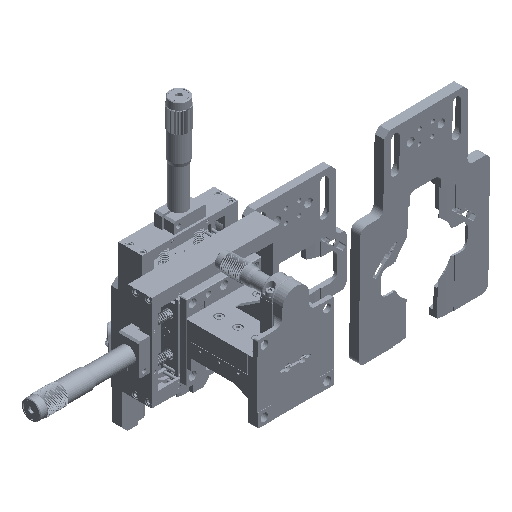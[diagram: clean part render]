
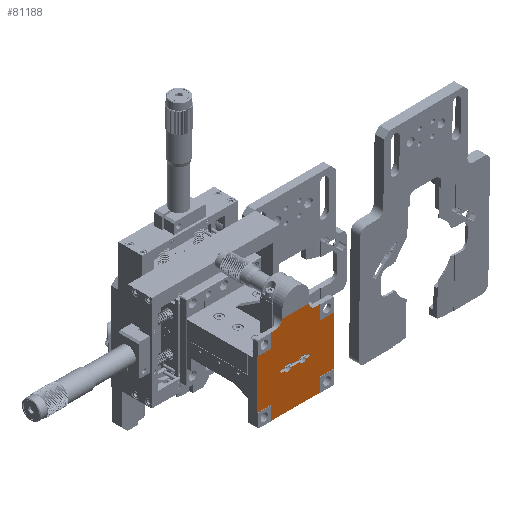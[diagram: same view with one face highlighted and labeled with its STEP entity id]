
A CAD part, isometric view. The second image highlights one B-rep face of the part: STEP entity #81188.
In plain terms, the highlighted planar face has unit normal (0, -1, 0) as drawn and (0, 0, -1) by its records, which use the part's own axes.
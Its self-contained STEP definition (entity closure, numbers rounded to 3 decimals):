
#74799=DIRECTION('',(0.,1.,0.));
#74800=VECTOR('',#74799,11.);
#74801=CARTESIAN_POINT('',(50.,36.6,-7.7));
#74802=LINE('',#74801,#74800);
#74803=DIRECTION('',(-1.,0.,0.));
#74804=VECTOR('',#74803,3.55);
#74805=CARTESIAN_POINT('',(50.,47.6,-7.7));
#74806=LINE('',#74805,#74804);
#74807=CARTESIAN_POINT('',(46.45,52.8,-7.7));
#74808=DIRECTION('',(0.,0.,-1.));
#74809=DIRECTION('',(0.,-1.,0.));
#74810=AXIS2_PLACEMENT_3D('',#74807,#74808,#74809);
#74812=CARTESIAN_POINT('',(14.55,52.8,-7.7));
#74813=DIRECTION('',(0.,0.,-1.));
#74814=DIRECTION('',(1.,0.,0.));
#74815=AXIS2_PLACEMENT_3D('',#74812,#74813,#74814);
#74817=DIRECTION('',(-1.,0.,0.));
#74818=VECTOR('',#74817,3.55);
#74819=CARTESIAN_POINT('',(14.55,47.6,-7.7));
#74820=LINE('',#74819,#74818);
#74821=DIRECTION('',(0.,-1.,0.));
#74822=VECTOR('',#74821,39.);
#74823=CARTESIAN_POINT('',(0.,36.6,-7.7));
#74824=LINE('',#74823,#74822);
#74825=DIRECTION('',(1.,0.,0.));
#74826=VECTOR('',#74825,39.);
#74827=CARTESIAN_POINT('',(11.,-13.4,-7.7));
#74828=LINE('',#74827,#74826);
#74829=DIRECTION('',(0.,1.,0.));
#74830=VECTOR('',#74829,11.);
#74831=CARTESIAN_POINT('',(50.,-13.4,-7.7));
#74832=LINE('',#74831,#74830);
#74833=DIRECTION('',(1.,0.,0.));
#74834=VECTOR('',#74833,11.);
#74835=CARTESIAN_POINT('',(50.,-2.4,-7.7));
#74836=LINE('',#74835,#74834);
#74837=DIRECTION('',(0.,1.,0.));
#74838=VECTOR('',#74837,39.);
#74839=CARTESIAN_POINT('',(61.,-2.4,-7.7));
#74840=LINE('',#74839,#74838);
#74841=DIRECTION('',(-1.,0.,0.));
#74842=VECTOR('',#74841,11.);
#74843=CARTESIAN_POINT('',(61.,36.6,-7.7));
#74844=LINE('',#74843,#74842);
#74845=DIRECTION('',(1.,0.,0.));
#74846=VECTOR('',#74845,2.438);
#74847=CARTESIAN_POINT('',(39.062,17.7,-7.7));
#74848=LINE('',#74847,#74846);
#74849=CARTESIAN_POINT('',(41.5,16.7,-7.7));
#74850=DIRECTION('',(0.,0.,-1.));
#74851=DIRECTION('',(0.,1.,0.));
#74852=AXIS2_PLACEMENT_3D('',#74849,#74850,#74851);
#74854=CARTESIAN_POINT('',(41.5,16.7,-7.7));
#74855=DIRECTION('',(0.,0.,-1.));
#74856=DIRECTION('',(1.,0.,0.));
#74857=AXIS2_PLACEMENT_3D('',#74854,#74855,#74856);
#74859=DIRECTION('',(-1.,0.,0.));
#74860=VECTOR('',#74859,2.438);
#74861=CARTESIAN_POINT('',(41.5,15.7,-7.7));
#74862=LINE('',#74861,#74860);
#74863=CARTESIAN_POINT('',(36.5,16.7,-7.7));
#74864=DIRECTION('',(0.,0.,-1.));
#74865=DIRECTION('',(0.932,-0.364,0.));
#74866=AXIS2_PLACEMENT_3D('',#74863,#74864,#74865);
#74868=DIRECTION('',(-1.,0.,0.));
#74869=VECTOR('',#74868,6.877);
#74870=CARTESIAN_POINT('',(33.938,15.7,-7.7));
#74871=LINE('',#74870,#74869);
#74872=CARTESIAN_POINT('',(24.5,16.7,-7.7));
#74873=DIRECTION('',(0.,0.,-1.));
#74874=DIRECTION('',(0.932,-0.364,0.));
#74875=AXIS2_PLACEMENT_3D('',#74872,#74873,#74874);
#74877=DIRECTION('',(-1.,0.,0.));
#74878=VECTOR('',#74877,2.438);
#74879=CARTESIAN_POINT('',(21.938,15.7,-7.7));
#74880=LINE('',#74879,#74878);
#74881=CARTESIAN_POINT('',(19.5,16.7,-7.7));
#74882=DIRECTION('',(0.,0.,-1.));
#74883=DIRECTION('',(0.,-1.,0.));
#74884=AXIS2_PLACEMENT_3D('',#74881,#74882,#74883);
#74886=CARTESIAN_POINT('',(19.5,16.7,-7.7));
#74887=DIRECTION('',(0.,0.,-1.));
#74888=DIRECTION('',(-1.,0.,0.));
#74889=AXIS2_PLACEMENT_3D('',#74886,#74887,#74888);
#74891=DIRECTION('',(1.,0.,0.));
#74892=VECTOR('',#74891,2.438);
#74893=CARTESIAN_POINT('',(19.5,17.7,-7.7));
#74894=LINE('',#74893,#74892);
#74895=CARTESIAN_POINT('',(24.5,16.7,-7.7));
#74896=DIRECTION('',(0.,0.,-1.));
#74897=DIRECTION('',(-0.932,0.364,0.));
#74898=AXIS2_PLACEMENT_3D('',#74895,#74896,#74897);
#74900=DIRECTION('',(1.,0.,0.));
#74901=VECTOR('',#74900,6.877);
#74902=CARTESIAN_POINT('',(27.062,17.7,-7.7));
#74903=LINE('',#74902,#74901);
#74904=CARTESIAN_POINT('',(36.5,16.7,-7.7));
#74905=DIRECTION('',(0.,0.,-1.));
#74906=DIRECTION('',(-0.932,0.364,0.));
#74907=AXIS2_PLACEMENT_3D('',#74904,#74905,#74906);
#74921=DIRECTION('',(1.,0.,0.));
#74922=VECTOR('',#74921,21.5);
#74923=CARTESIAN_POINT('',(19.75,52.8,-7.7));
#74924=LINE('',#74923,#74922);
#74945=DIRECTION('',(0.,1.,0.));
#74946=VECTOR('',#74945,11.);
#74947=CARTESIAN_POINT('',(11.,36.6,-7.7));
#74948=LINE('',#74947,#74946);
#74957=DIRECTION('',(1.,0.,0.));
#74958=VECTOR('',#74957,11.);
#74959=CARTESIAN_POINT('',(0.,36.6,-7.7));
#74960=LINE('',#74959,#74958);
#75365=DIRECTION('',(0.,1.,0.));
#75366=VECTOR('',#75365,11.);
#75367=CARTESIAN_POINT('',(11.,-13.4,-7.7));
#75368=LINE('',#75367,#75366);
#75377=DIRECTION('',(-1.,0.,0.));
#75378=VECTOR('',#75377,11.);
#75379=CARTESIAN_POINT('',(11.,-2.4,-7.7));
#75380=LINE('',#75379,#75378);
#79545=CARTESIAN_POINT('',(19.75,52.8,-7.7));
#79546=VERTEX_POINT('',#79545);
#79548=CARTESIAN_POINT('',(14.55,47.6,-7.7));
#79550=VERTEX_POINT('',#79548);
#79556=CARTESIAN_POINT('',(11.,47.6,-7.7));
#79557=VERTEX_POINT('',#79556);
#79717=CARTESIAN_POINT('',(50.,-13.4,-7.7));
#79718=VERTEX_POINT('',#79717);
#79719=CARTESIAN_POINT('',(11.,-13.4,-7.7));
#79720=VERTEX_POINT('',#79719);
#79755=CARTESIAN_POINT('',(61.,36.6,-7.7));
#79756=VERTEX_POINT('',#79755);
#79757=CARTESIAN_POINT('',(61.,-2.4,-7.7));
#79758=VERTEX_POINT('',#79757);
#79809=CARTESIAN_POINT('',(46.45,47.6,-7.7));
#79810=VERTEX_POINT('',#79809);
#79811=CARTESIAN_POINT('',(50.,47.6,-7.7));
#79812=VERTEX_POINT('',#79811);
#79813=CARTESIAN_POINT('',(41.25,52.8,-7.7));
#79814=VERTEX_POINT('',#79813);
#79815=CARTESIAN_POINT('',(50.,36.6,-7.7));
#79816=VERTEX_POINT('',#79815);
#79817=CARTESIAN_POINT('',(11.,36.6,-7.7));
#79818=VERTEX_POINT('',#79817);
#79819=CARTESIAN_POINT('',(0.,36.6,-7.7));
#79820=VERTEX_POINT('',#79819);
#79821=CARTESIAN_POINT('',(0.,-2.4,-7.7));
#79822=VERTEX_POINT('',#79821);
#79823=CARTESIAN_POINT('',(11.,-2.4,-7.7));
#79824=VERTEX_POINT('',#79823);
#79825=CARTESIAN_POINT('',(50.,-2.4,-7.7));
#79826=VERTEX_POINT('',#79825);
#79827=CARTESIAN_POINT('',(39.062,17.7,-7.7));
#79828=CARTESIAN_POINT('',(41.5,17.7,-7.7));
#79829=VERTEX_POINT('',#79827);
#79830=VERTEX_POINT('',#79828);
#79831=CARTESIAN_POINT('',(42.5,16.7,-7.7));
#79832=VERTEX_POINT('',#79831);
#79833=CARTESIAN_POINT('',(41.5,15.7,-7.7));
#79834=VERTEX_POINT('',#79833);
#79835=CARTESIAN_POINT('',(39.062,15.7,-7.7));
#79836=VERTEX_POINT('',#79835);
#79837=CARTESIAN_POINT('',(33.938,15.7,-7.7));
#79838=VERTEX_POINT('',#79837);
#79839=CARTESIAN_POINT('',(27.062,15.7,-7.7));
#79840=VERTEX_POINT('',#79839);
#79841=CARTESIAN_POINT('',(21.938,15.7,-7.7));
#79842=VERTEX_POINT('',#79841);
#79843=CARTESIAN_POINT('',(19.5,15.7,-7.7));
#79844=VERTEX_POINT('',#79843);
#79845=CARTESIAN_POINT('',(18.5,16.7,-7.7));
#79846=VERTEX_POINT('',#79845);
#79847=CARTESIAN_POINT('',(19.5,17.7,-7.7));
#79848=VERTEX_POINT('',#79847);
#79849=CARTESIAN_POINT('',(21.938,17.7,-7.7));
#79850=VERTEX_POINT('',#79849);
#79851=CARTESIAN_POINT('',(27.062,17.7,-7.7));
#79852=VERTEX_POINT('',#79851);
#79853=CARTESIAN_POINT('',(33.938,17.7,-7.7));
#79854=VERTEX_POINT('',#79853);
#81125=CARTESIAN_POINT('',(0.,0.,-7.7));
#81126=DIRECTION('',(0.,0.,-1.));
#81127=DIRECTION('',(-1.,0.,0.));
#81128=AXIS2_PLACEMENT_3D('',#81125,#81126,#81127);
#81129=PLANE('',#81128);
#81131=ORIENTED_EDGE('',*,*,#81130,.T.);
#81132=ORIENTED_EDGE('',*,*,#81102,.T.);
#81133=ORIENTED_EDGE('',*,*,#81114,.T.);
#81135=ORIENTED_EDGE('',*,*,#81134,.F.);
#81136=ORIENTED_EDGE('',*,*,#80338,.T.);
#81137=ORIENTED_EDGE('',*,*,#80357,.T.);
#81139=ORIENTED_EDGE('',*,*,#81138,.F.);
#81141=ORIENTED_EDGE('',*,*,#81140,.F.);
#81143=ORIENTED_EDGE('',*,*,#81142,.T.);
#81145=ORIENTED_EDGE('',*,*,#81144,.F.);
#81147=ORIENTED_EDGE('',*,*,#81146,.F.);
#81148=ORIENTED_EDGE('',*,*,#80877,.T.);
#81150=ORIENTED_EDGE('',*,*,#81149,.T.);
#81152=ORIENTED_EDGE('',*,*,#81151,.T.);
#81153=ORIENTED_EDGE('',*,*,#80966,.T.);
#81155=ORIENTED_EDGE('',*,*,#81154,.T.);
#81156=EDGE_LOOP('',(#81131,#81132,#81133,#81135,#81136,#81137,#81139,#81141,
#81143,#81145,#81147,#81148,#81150,#81152,#81153,#81155));
#81157=FACE_OUTER_BOUND('',#81156,.F.);
#81159=ORIENTED_EDGE('',*,*,#81158,.T.);
#81161=ORIENTED_EDGE('',*,*,#81160,.T.);
#81163=ORIENTED_EDGE('',*,*,#81162,.T.);
#81165=ORIENTED_EDGE('',*,*,#81164,.T.);
#81167=ORIENTED_EDGE('',*,*,#81166,.T.);
#81169=ORIENTED_EDGE('',*,*,#81168,.T.);
#81171=ORIENTED_EDGE('',*,*,#81170,.T.);
#81173=ORIENTED_EDGE('',*,*,#81172,.T.);
#81175=ORIENTED_EDGE('',*,*,#81174,.T.);
#81177=ORIENTED_EDGE('',*,*,#81176,.T.);
#81179=ORIENTED_EDGE('',*,*,#81178,.T.);
#81181=ORIENTED_EDGE('',*,*,#81180,.T.);
#81183=ORIENTED_EDGE('',*,*,#81182,.T.);
#81185=ORIENTED_EDGE('',*,*,#81184,.T.);
#81186=EDGE_LOOP('',(#81159,#81161,#81163,#81165,#81167,#81169,#81171,#81173,
#81175,#81177,#81179,#81181,#81183,#81185));
#81187=FACE_BOUND('',#81186,.F.);
#81188=ADVANCED_FACE('',(#81157,#81187),#81129,.T.);
#74811=CIRCLE('',#74810,5.2);
#74816=CIRCLE('',#74815,5.2);
#74853=CIRCLE('',#74852,1.);
#74858=CIRCLE('',#74857,1.);
#74867=CIRCLE('',#74866,2.75);
#74876=CIRCLE('',#74875,2.75);
#74885=CIRCLE('',#74884,1.);
#74890=CIRCLE('',#74889,1.);
#74899=CIRCLE('',#74898,2.75);
#74908=CIRCLE('',#74907,2.75);
#80338=EDGE_CURVE('',#79546,#79550,#74816,.T.);
#80357=EDGE_CURVE('',#79550,#79557,#74820,.T.);
#80877=EDGE_CURVE('',#79720,#79718,#74828,.T.);
#80966=EDGE_CURVE('',#79758,#79756,#74840,.T.);
#81102=EDGE_CURVE('',#79812,#79810,#74806,.T.);
#81114=EDGE_CURVE('',#79810,#79814,#74811,.T.);
#81130=EDGE_CURVE('',#79816,#79812,#74802,.T.);
#81134=EDGE_CURVE('',#79546,#79814,#74924,.T.);
#81138=EDGE_CURVE('',#79818,#79557,#74948,.T.);
#81140=EDGE_CURVE('',#79820,#79818,#74960,.T.);
#81142=EDGE_CURVE('',#79820,#79822,#74824,.T.);
#81144=EDGE_CURVE('',#79824,#79822,#75380,.T.);
#81146=EDGE_CURVE('',#79720,#79824,#75368,.T.);
#81149=EDGE_CURVE('',#79718,#79826,#74832,.T.);
#81151=EDGE_CURVE('',#79826,#79758,#74836,.T.);
#81154=EDGE_CURVE('',#79756,#79816,#74844,.T.);
#81158=EDGE_CURVE('',#79829,#79830,#74848,.T.);
#81160=EDGE_CURVE('',#79830,#79832,#74853,.T.);
#81162=EDGE_CURVE('',#79832,#79834,#74858,.T.);
#81164=EDGE_CURVE('',#79834,#79836,#74862,.T.);
#81166=EDGE_CURVE('',#79836,#79838,#74867,.T.);
#81168=EDGE_CURVE('',#79838,#79840,#74871,.T.);
#81170=EDGE_CURVE('',#79840,#79842,#74876,.T.);
#81172=EDGE_CURVE('',#79842,#79844,#74880,.T.);
#81174=EDGE_CURVE('',#79844,#79846,#74885,.T.);
#81176=EDGE_CURVE('',#79846,#79848,#74890,.T.);
#81178=EDGE_CURVE('',#79848,#79850,#74894,.T.);
#81180=EDGE_CURVE('',#79850,#79852,#74899,.T.);
#81182=EDGE_CURVE('',#79852,#79854,#74903,.T.);
#81184=EDGE_CURVE('',#79854,#79829,#74908,.T.);
